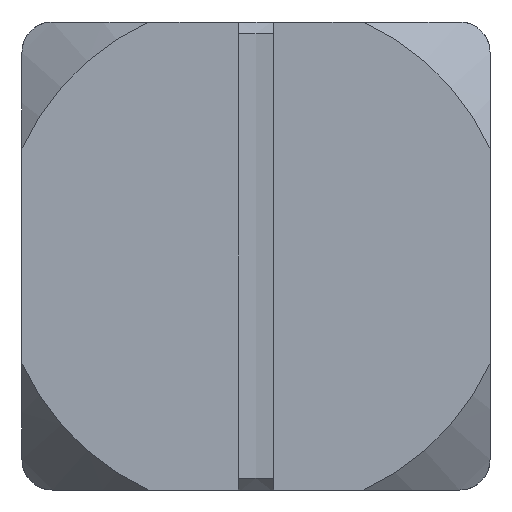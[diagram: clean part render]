
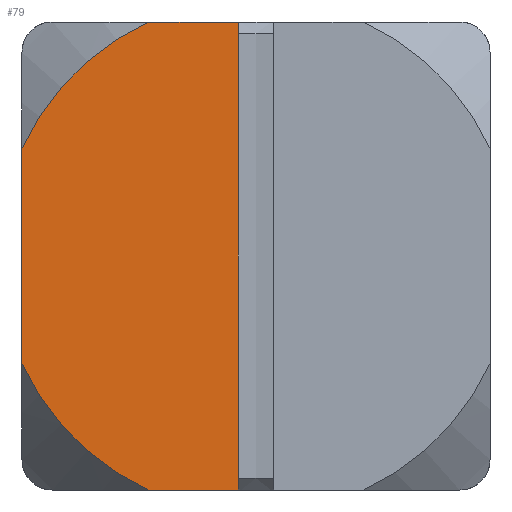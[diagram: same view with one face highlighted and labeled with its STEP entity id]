
A CAD part, left-side view. The second image highlights one B-rep face of the part: STEP entity #79.
In plain terms, the highlighted planar face has unit normal (-1, 0, 0).
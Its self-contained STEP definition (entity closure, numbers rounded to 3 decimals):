
#79 = ADVANCED_FACE( '', ( #136 ), #137, .F. );
#136 = FACE_OUTER_BOUND( '', #251, .T. );
#137 = PLANE( '', #252 );
#251 = EDGE_LOOP( '', ( #392, #393, #394, #395, #396, #397 ) );
#252 = AXIS2_PLACEMENT_3D( '', #398, #399, #400 );
#392 = ORIENTED_EDGE( '', *, *, #805, .T. );
#393 = ORIENTED_EDGE( '', *, *, #801, .F. );
#394 = ORIENTED_EDGE( '', *, *, #806, .F. );
#395 = ORIENTED_EDGE( '', *, *, #807, .F. );
#396 = ORIENTED_EDGE( '', *, *, #808, .T. );
#397 = ORIENTED_EDGE( '', *, *, #809, .F. );
#398 = CARTESIAN_POINT( '', ( -22.5, 10., 10. ) );
#399 = DIRECTION( '', ( 1., 0., 0. ) );
#400 = DIRECTION( '', ( 0., 0., -1. ) );
#801 = EDGE_CURVE( '', #955, #957, #958, .T. );
#805 = EDGE_CURVE( '', #964, #957, #965, .T. );
#806 = EDGE_CURVE( '', #966, #955, #967, .T. );
#807 = EDGE_CURVE( '', #968, #966, #969, .T. );
#808 = EDGE_CURVE( '', #968, #970, #971, .T. );
#809 = EDGE_CURVE( '', #964, #970, #972, .T. );
#955 = VERTEX_POINT( '', #1214 );
#957 = VERTEX_POINT( '', #1217 );
#958 = LINE( '', #1218, #1219 );
#964 = VERTEX_POINT( '', #1230 );
#965 = LINE( '', #1231, #1232 );
#966 = VERTEX_POINT( '', #1233 );
#967 = LINE( '', #1234, #1235 );
#968 = VERTEX_POINT( '', #1236 );
#969 = CIRCLE( '', #1237, 11. );
#970 = VERTEX_POINT( '', #1238 );
#971 = LINE( '', #1239, #1240 );
#972 = CIRCLE( '', #1241, 11. );
#1214 = CARTESIAN_POINT( '', ( -22.5, 0.75, 10. ) );
#1217 = CARTESIAN_POINT( '', ( -22.5, 0.75, -10. ) );
#1218 = CARTESIAN_POINT( '', ( -22.5, 0.75, 10. ) );
#1219 = VECTOR( '', #1678, 1000. );
#1230 = CARTESIAN_POINT( '', ( -22.5, 4.583, -10. ) );
#1231 = CARTESIAN_POINT( '', ( -22.5, 10., -10. ) );
#1232 = VECTOR( '', #1681, 1000. );
#1233 = CARTESIAN_POINT( '', ( -22.5, 4.583, 10. ) );
#1234 = CARTESIAN_POINT( '', ( -22.5, 10., 10. ) );
#1235 = VECTOR( '', #1682, 1000. );
#1236 = CARTESIAN_POINT( '', ( -22.5, 10., 4.583 ) );
#1237 = AXIS2_PLACEMENT_3D( '', #1683, #1684, #1685 );
#1238 = CARTESIAN_POINT( '', ( -22.5, 10., -4.583 ) );
#1239 = CARTESIAN_POINT( '', ( -22.5, 10., 10. ) );
#1240 = VECTOR( '', #1686, 1000. );
#1241 = AXIS2_PLACEMENT_3D( '', #1687, #1688, #1689 );
#1678 = DIRECTION( '', ( 0., 0., -1. ) );
#1681 = DIRECTION( '', ( 0., -1., 0. ) );
#1682 = DIRECTION( '', ( 0., -1., 0. ) );
#1683 = CARTESIAN_POINT( '', ( -22.5, 0., 0. ) );
#1684 = DIRECTION( '', ( 1., 0., 0. ) );
#1685 = DIRECTION( '', ( 0., 0., -1. ) );
#1686 = DIRECTION( '', ( 0., 0., -1. ) );
#1687 = CARTESIAN_POINT( '', ( -22.5, 0., 0. ) );
#1688 = DIRECTION( '', ( 1., 0., 0. ) );
#1689 = DIRECTION( '', ( 0., 0., -1. ) );
